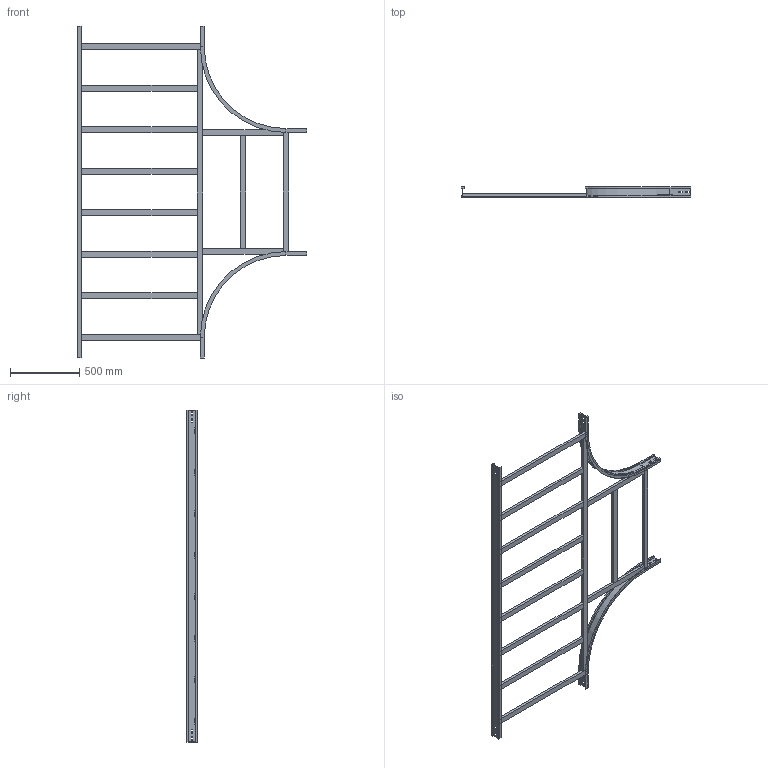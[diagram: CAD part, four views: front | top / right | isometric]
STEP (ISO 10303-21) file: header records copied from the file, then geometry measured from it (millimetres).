
FILE_DESCRIPTION (( 'STEP AP214' ), '1' );
FILE_NAME ('15S6C900.step', '2025-02-21T16:15:42', ( '' ), ( '' ), 'SwSTEP 2.0', 'SolidWorks 2023', '' );
FILE_SCHEMA (( 'AUTOMOTIVE_DESIGN' ));
Length unit declared in the file: millimetre
Products named in the file (8): TRAVERSINO_VERT_R600; 15S6C900; LONGH.RETT_H75_R600+900; TRAVERSINO_COPPIA_900; TRAVERSINO_900; LONGH.INTERNO 90°_H75_R600; TRAVERSINO_INTERMEDIO_R600+900; TRAVERSINO_LONG._R600+900
Assembly tree (16 placements, depth 2):
  15S6C900
    LONGH.INTERNO 90°_H75_R600  x2
    LONGH.RETT_H75_R600+900
    TRAVERSINO_900  x3
    TRAVERSINO_LONG._R600+900
    TRAVERSINO_INTERMEDIO_R600+900  x6
    TRAVERSINO_VERT_R600  x2
    TRAVERSINO_COPPIA_900
Bounding box: 1659 x 75 x 2400 mm (x, y, z)
Volume: 12017291.8 mm3; surface area: 2663792.4 mm2
Topology: 16 solids, 16 shells, 216 faces, 504 edges, 320 vertices
Faces by surface type: plane 204, cylinder 12
Entity records: 3597 total; most frequent: CARTESIAN_POINT 585, DIRECTION 554, ORIENTED_EDGE 552, EDGE_CURVE 276, VECTOR 264, LINE 264, VERTEX_POINT 176, AXIS2_PLACEMENT_3D 145
